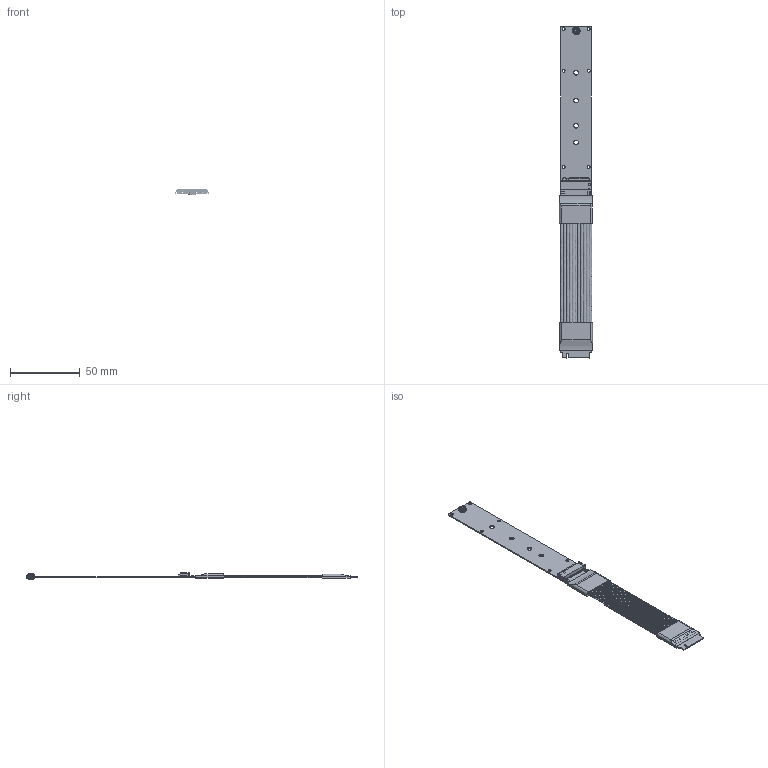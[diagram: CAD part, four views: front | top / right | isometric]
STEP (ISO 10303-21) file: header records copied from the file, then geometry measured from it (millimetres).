
FILE_DESCRIPTION(('Open CASCADE Model'),'2;1');
FILE_NAME('Open CASCADE Shape Model','2025-07-08T16:29:13',('Author'),( 'Open CASCADE'),'Open CASCADE STEP processor 7.5','Open CASCADE 7.5' ,'Unknown');
FILE_SCHEMA(('AUTOMOTIVE_DESIGN { 1 0 10303 214 1 1 1 1 }'));
Length unit declared in the file: millimetre
Products named in the file (254): PCB; Board; Open CASCADE STEP translator 7.5 2.1.1; Designator59; C0603_060; CN1; c-1-2199119-3-a1-3d.stp; Designator58; Designator57; LED AP1608; Designator46; 0603_RES; Capsule; Encapsulation; TopCover; Free-Models; R4S HST 20220711_RGB4408131; K44SH 24P ֱ¿잲0250423; K44SH 20P ֱ¿잲0250423; G0030_RGB12967653; G0042; M2 nuc_RGB3326705
Assembly tree (260 placements, depth 4):
  PCB
    Board
      Open CASCADE STEP translator 7.5 2.1.1
    Designator59
      C0603_060
      C0603_060
      C0603_060
    CN1
      c-1-2199119-3-a1-3d.stp  x2
      c-1-2199119-3-a1-3d.stp
    Designator58
      C0603_060
      C0603_060
      C0603_060
    Designator57
      LED AP1608
    Designator46
      0603_RES
        Capsule
        Encapsulation  x2
        TopCover
    Free-Models
      R4S HST 20220711_RGB4408131  x2
      K44SH 24P ֱ¿잲0250423
      K44SH 24P ֱ¿잲0250423
      K44SH 24P ֱ¿잲0250423
      K44SH 24P ֱ¿잲0250423
      K44SH 24P ֱ¿잲0250423
      K44SH 24P ֱ¿잲0250423
      K44SH 24P ֱ¿잲0250423
      K44SH 24P ֱ¿잲0250423
      K44SH 24P ֱ¿잲0250423
      K44SH 24P ֱ¿잲0250423
      K44SH 24P ֱ¿잲0250423
      K44SH 24P ֱ¿잲0250423
      K44SH 24P ֱ¿잲0250423
      K44SH 24P ֱ¿잲0250423
      K44SH 24P ֱ¿잲0250423
      K44SH 24P ֱ¿잲0250423
      K44SH 24P ֱ¿잲0250423
      K44SH 24P ֱ¿잲0250423
      K44SH 24P ֱ¿잲0250423
      K44SH 24P ֱ¿잲0250423
      K44SH 24P ֱ¿잲0250423
      K44SH 24P ֱ¿잲0250423
      K44SH 24P ֱ¿잲0250423
      K44SH 24P ֱ¿잲0250423
      K44SH 24P ֱ¿잲0250423
      K44SH 24P ֱ¿잲0250423
      K44SH 24P ֱ¿잲0250423
      K44SH 24P ֱ¿잲0250423
      K44SH 24P ֱ¿잲0250423
      K44SH 24P ֱ¿잲0250423
      K44SH 24P ֱ¿잲0250423
      K44SH 24P ֱ¿잲0250423
      K44SH 24P ֱ¿잲0250423
      K44SH 24P ֱ¿잲0250423
      K44SH 24P ֱ¿잲0250423
      K44SH 24P ֱ¿잲0250423
      K44SH 24P ֱ¿잲0250423
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Bounding box: 23.67 x 238.09 x 4.99 mm (x, y, z)
Volume: 6164.7 mm3; surface area: 34348.7 mm2
Topology: 256 solids, 256 shells, 6376 faces, 16549 edges, 10924 vertices
Faces by surface type: plane 4477, cylinder 1558, bspline 280, extrusion 22, cone 17, sphere 16, torus 6
Full cylindrical faces by diameter (mm): 0.2 x132, 0.254 x176, 0.63 x44, 1.05 x2, 1.1 x1, 1.6 x1, 2 x1, 2.2 x6, 3.2 x3, 3.3 x3, 3.4 x6, 4.1 x1, 5 x1, 5.76 x2
Entity records: 195030 total; most frequent: CARTESIAN_POINT 37959, ORIENTED_EDGE 23610, DIRECTION 22671, EDGE_CURVE 11805, VECTOR 8563, LINE 8541, VERTEX_POINT 7787, AXIS2_PLACEMENT_3D 7054
